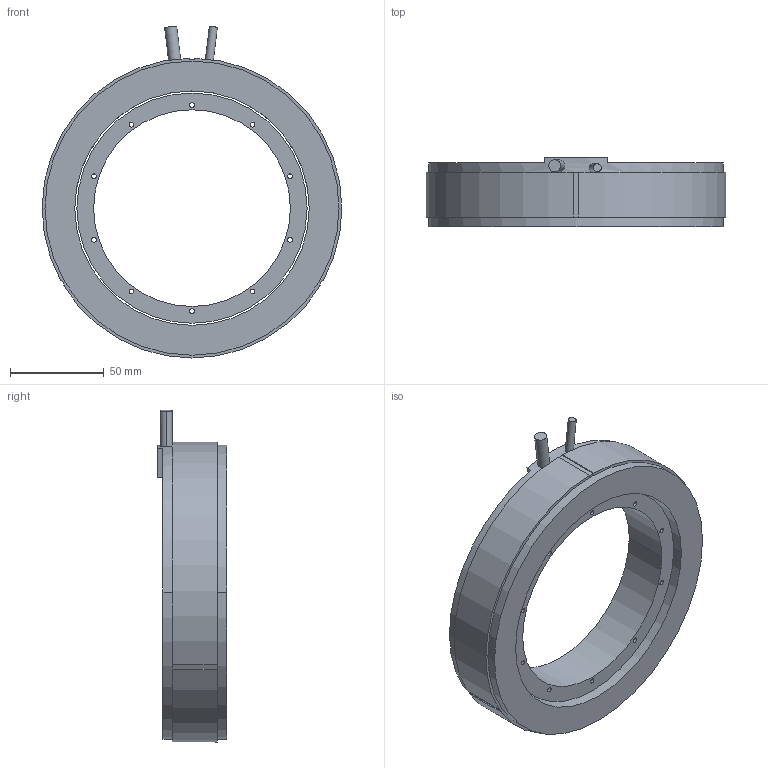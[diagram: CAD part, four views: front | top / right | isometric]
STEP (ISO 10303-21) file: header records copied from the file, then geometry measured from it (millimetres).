
FILE_DESCRIPTION (( 'STEP AP203' ), '1' );
FILE_NAME ('TMX160-34 3D.STEP', '2022-11-23T02:33:03', ( '' ), ( '' ), 'SwSTEP 2.0', 'SolidWorks 2021', '' );
FILE_SCHEMA (( 'CONFIG_CONTROL_DESIGN' ));
Length unit declared in the file: millimetre
Products named in the file (3): TMX160-34 KIT 3D; TM160-34 3D; TMX160-34 3D
Assembly tree (2 placements, depth 2):
  TMX160-34 3D
    TM160-34 3D
    TMX160-34 KIT 3D
Bounding box: 160 x 37 x 177.21 mm (x, y, z)
Volume: 338032.5 mm3; surface area: 72821.5 mm2
Topology: 2 solids, 2 shells, 58 faces, 153 edges, 102 vertices
Faces by surface type: cylinder 38, plane 20
Entity records: 2300 total; most frequent: CARTESIAN_POINT 440, DIRECTION 351, ORIENTED_EDGE 306, EDGE_CURVE 153, AXIS2_PLACEMENT_3D 139, VERTEX_POINT 102, EDGE_LOOP 85, CIRCLE 76
